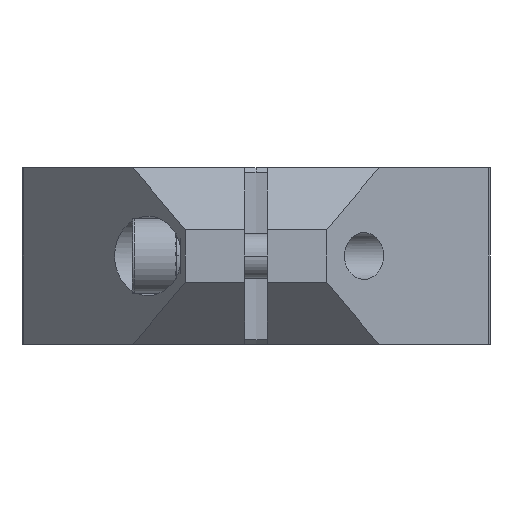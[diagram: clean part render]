
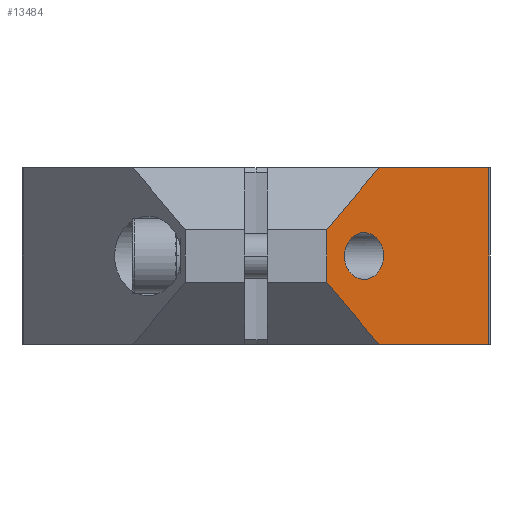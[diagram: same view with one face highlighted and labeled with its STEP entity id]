
A CAD part, left-side view. The second image highlights one B-rep face of the part: STEP entity #13484.
In plain terms, the highlighted planar face has unit normal (-0.643, -0.766, 0).
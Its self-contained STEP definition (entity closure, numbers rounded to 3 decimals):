
#325 = VECTOR ( 'NONE', #6012, 1000. ) ;
#390 = CARTESIAN_POINT ( 'NONE',  ( -89.677, 9.138, 2.65 ) ) ;
#439 = LINE ( 'NONE', #3596, #6193 ) ;
#480 = ORIENTED_EDGE ( 'NONE', *, *, #10926, .F. ) ;
#633 = DIRECTION ( 'NONE',  ( 0.608, -0.51, 0.608 ) ) ;
#739 = DIRECTION ( 'NONE',  ( -0.608, 0.51, 0.608 ) ) ;
#1012 = VERTEX_POINT ( 'NONE', #5813 ) ;
#1015 = CARTESIAN_POINT ( 'NONE',  ( -82.377, 3.012, -10. ) ) ;
#1124 = LINE ( 'NONE', #5365, #7056 ) ;
#1250 = CARTESIAN_POINT ( 'NONE',  ( -84.377, 4.691, 2.65 ) ) ;
#1414 = FACE_BOUND ( 'NONE', #4881, .T. ) ;
#1423 = CARTESIAN_POINT ( 'NONE',  ( -67.516, -9.457, 10. ) ) ;
#1461 = EDGE_CURVE ( 'NONE', #1012, #12773, #1124, .T. ) ;
#1627 = ORIENTED_EDGE ( 'NONE', *, *, #5807, .F. ) ;
#1739 = LINE ( 'NONE', #9013, #10412 ) ;
#2277 = VERTEX_POINT ( 'NONE', #7565 ) ;
#2962 = VECTOR ( 'NONE', #739, 1000. ) ;
#3351 = CARTESIAN_POINT ( 'NONE',  ( -89.677, 9.138, -2.65 ) ) ;
#3353 = VERTEX_POINT ( 'NONE', #1250 ) ;
#3572 = DIRECTION ( 'NONE',  ( 0.766, -0.643, 0. ) ) ;
#3596 = CARTESIAN_POINT ( 'NONE',  ( -67.516, -9.457, 0. ) ) ;
#3823 = VERTEX_POINT ( 'NONE', #13643 ) ;
#4062 = ORIENTED_EDGE ( 'NONE', *, *, #1461, .F. ) ;
#4588 = CARTESIAN_POINT ( 'NONE',  ( -84.377, 4.691, -2.65 ) ) ;
#4881 = EDGE_LOOP ( 'NONE', ( #7337, #8231 ) ) ;
#5114 = AXIS2_PLACEMENT_3D ( 'NONE', #5764, #10016, #7775 ) ;
#5365 = CARTESIAN_POINT ( 'NONE',  ( -89.377, 8.886, 0. ) ) ;
#5764 = CARTESIAN_POINT ( 'NONE',  ( -67.516, -9.457, -10. ) ) ;
#5807 = EDGE_CURVE ( 'NONE', #11000, #10377, #12149, .T. ) ;
#5813 = CARTESIAN_POINT ( 'NONE',  ( -89.377, 8.886, -3. ) ) ;
#6012 = DIRECTION ( 'NONE',  ( 0.766, -0.643, 0. ) ) ;
#6014 = EDGE_CURVE ( 'NONE', #10377, #2277, #439, .T. ) ;
#6193 = VECTOR ( 'NONE', #7895, 1000. ) ;
#6279 = EDGE_CURVE ( 'NONE', #12684, #2277, #7880, .T. ) ;
#6419 = CARTESIAN_POINT ( 'NONE',  ( -84.377, 4.691, -2.65 ) ) ;
#6644 = CARTESIAN_POINT ( 'NONE',  ( -82.377, 3.012, 10. ) ) ;
#6703 = ORIENTED_EDGE ( 'NONE', *, *, #6014, .F. ) ;
#6886 = FACE_OUTER_BOUND ( 'NONE', #9160, .T. ) ;
#6934 = ORIENTED_EDGE ( 'NONE', *, *, #6279, .T. ) ;
#6950 = PLANE ( 'NONE',  #5114 ) ;
#7056 = VECTOR ( 'NONE', #12774, 1000. ) ;
#7227 =( BOUNDED_CURVE ( )  B_SPLINE_CURVE ( 3, ( #13022, #390, #3351, #4588 ),
 .UNSPECIFIED., .F., .F. ) 
 B_SPLINE_CURVE_WITH_KNOTS ( ( 4, 4 ),
 ( 4.712, 7.854 ),
 .UNSPECIFIED. ) 
 CURVE ( )  GEOMETRIC_REPRESENTATION_ITEM ( )  RATIONAL_B_SPLINE_CURVE ( ( 1., 0.333, 0.333, 1. ) ) 
 REPRESENTATION_ITEM ( '' )  );
#7337 = ORIENTED_EDGE ( 'NONE', *, *, #7570, .F. ) ;
#7565 = CARTESIAN_POINT ( 'NONE',  ( -67.516, -9.457, -10. ) ) ;
#7570 = EDGE_CURVE ( 'NONE', #3353, #3823, #7227, .T. ) ;
#7775 = DIRECTION ( 'NONE',  ( -0.766, 0.643, 0. ) ) ;
#7880 = LINE ( 'NONE', #8108, #325 ) ;
#7895 = DIRECTION ( 'NONE',  ( 0., 0., -1. ) ) ;
#8108 = CARTESIAN_POINT ( 'NONE',  ( -67.516, -9.457, -10. ) ) ;
#8133 = LINE ( 'NONE', #11763, #2962 ) ;
#8231 = ORIENTED_EDGE ( 'NONE', *, *, #8388, .F. ) ;
#8388 = EDGE_CURVE ( 'NONE', #3823, #3353, #8576, .T. ) ;
#8420 = VECTOR ( 'NONE', #3572, 1000. ) ;
#8576 =( BOUNDED_CURVE ( )  B_SPLINE_CURVE ( 3, ( #6419, #12757, #11730, #10663 ),
 .UNSPECIFIED., .F., .F. ) 
 B_SPLINE_CURVE_WITH_KNOTS ( ( 4, 4 ),
 ( 1.571, 4.712 ),
 .UNSPECIFIED. ) 
 CURVE ( )  GEOMETRIC_REPRESENTATION_ITEM ( )  RATIONAL_B_SPLINE_CURVE ( ( 1., 0.333, 0.333, 1. ) ) 
 REPRESENTATION_ITEM ( '' )  );
#8714 = CARTESIAN_POINT ( 'NONE',  ( -82.377, 3.012, 10. ) ) ;
#9013 = CARTESIAN_POINT ( 'NONE',  ( -89.377, 8.886, 3. ) ) ;
#9160 = EDGE_LOOP ( 'NONE', ( #6703, #1627, #9546, #4062, #480, #6934 ) ) ;
#9546 = ORIENTED_EDGE ( 'NONE', *, *, #9891, .F. ) ;
#9785 = CARTESIAN_POINT ( 'NONE',  ( -89.377, 8.886, 3. ) ) ;
#9891 = EDGE_CURVE ( 'NONE', #12773, #11000, #1739, .T. ) ;
#10016 = DIRECTION ( 'NONE',  ( 0.643, 0.766, 0. ) ) ;
#10377 = VERTEX_POINT ( 'NONE', #1423 ) ;
#10412 = VECTOR ( 'NONE', #633, 1000. ) ;
#10663 = CARTESIAN_POINT ( 'NONE',  ( -84.377, 4.691, 2.65 ) ) ;
#10926 = EDGE_CURVE ( 'NONE', #12684, #1012, #8133, .T. ) ;
#11000 = VERTEX_POINT ( 'NONE', #6644 ) ;
#11730 = CARTESIAN_POINT ( 'NONE',  ( -79.077, 0.243, 2.65 ) ) ;
#11763 = CARTESIAN_POINT ( 'NONE',  ( -82.377, 3.012, -10. ) ) ;
#12149 = LINE ( 'NONE', #8714, #8420 ) ;
#12684 = VERTEX_POINT ( 'NONE', #1015 ) ;
#12757 = CARTESIAN_POINT ( 'NONE',  ( -79.077, 0.243, -2.65 ) ) ;
#12773 = VERTEX_POINT ( 'NONE', #9785 ) ;
#12774 = DIRECTION ( 'NONE',  ( 0., 0., 1. ) ) ;
#13022 = CARTESIAN_POINT ( 'NONE',  ( -84.377, 4.691, 2.65 ) ) ;
#13484 = ADVANCED_FACE ( 'NONE', ( #1414, #6886 ), #6950, .F. ) ;
#13643 = CARTESIAN_POINT ( 'NONE',  ( -84.377, 4.691, -2.65 ) ) ;
